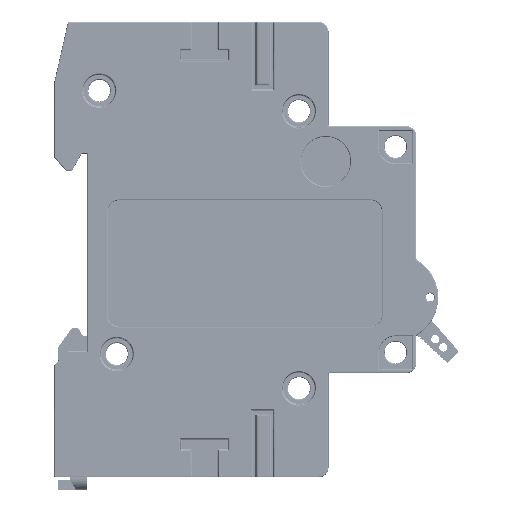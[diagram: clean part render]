
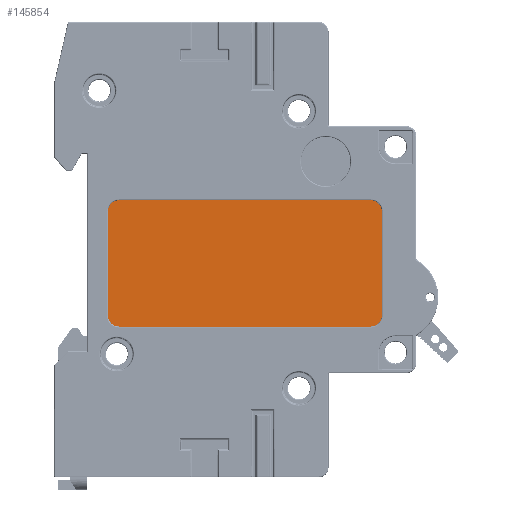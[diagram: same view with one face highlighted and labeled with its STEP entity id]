
A CAD part, front view. The second image highlights one B-rep face of the part: STEP entity #145854.
In plain terms, the highlighted planar face has unit normal (0, -1, 0).
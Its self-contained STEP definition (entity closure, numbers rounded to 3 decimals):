
#402 = CARTESIAN_POINT ( 'NONE',  ( 59.7, 0., 48.3 ) ) ;
#1172 = DIRECTION ( 'NONE',  ( 0., -1., 0. ) ) ;
#5265 = DIRECTION ( 'NONE',  ( 0., -1., 0. ) ) ;
#6903 = EDGE_LOOP ( 'NONE', ( #179249, #156064, #81278, #47494, #191475, #107065, #171596, #176689 ) ) ;
#7095 = CARTESIAN_POINT ( 'NONE',  ( 11.8, 0., 27.3 ) ) ;
#15238 = VERTEX_POINT ( 'NONE', #175763 ) ;
#21406 = DIRECTION ( 'NONE',  ( 0., -1., 0. ) ) ;
#25606 = VECTOR ( 'NONE', #170828, 1000. ) ;
#28996 = FACE_OUTER_BOUND ( 'NONE', #6903, .T. ) ;
#29867 = LINE ( 'NONE', #152408, #106408 ) ;
#33223 = CARTESIAN_POINT ( 'NONE',  ( 57.7, 0., 27.3 ) ) ;
#34711 = DIRECTION ( 'NONE',  ( 0., 0., -1. ) ) ;
#36138 = CARTESIAN_POINT ( 'NONE',  ( 57.7, 0., 48.3 ) ) ;
#36886 = EDGE_CURVE ( 'NONE', #155842, #72205, #86396, .T. ) ;
#38699 = CIRCLE ( 'NONE', #49735, 2. ) ;
#38716 = DIRECTION ( 'NONE',  ( 0., 0., -1. ) ) ;
#40457 = VECTOR ( 'NONE', #116579, 1000. ) ;
#44560 = CARTESIAN_POINT ( 'NONE',  ( 9.8, 0., 48.3 ) ) ;
#47494 = ORIENTED_EDGE ( 'NONE', *, *, #209052, .T. ) ;
#49226 = EDGE_CURVE ( 'NONE', #217583, #128631, #29867, .T. ) ;
#49735 = AXIS2_PLACEMENT_3D ( 'NONE', #111485, #21406, #38716 ) ;
#58026 = CARTESIAN_POINT ( 'NONE',  ( 57.7, 0., 50.3 ) ) ;
#61826 = DIRECTION ( 'NONE',  ( 0., 0., 1. ) ) ;
#64560 = DIRECTION ( 'NONE',  ( 0., 0., -1. ) ) ;
#66054 = CIRCLE ( 'NONE', #217394, 2. ) ;
#67897 = CARTESIAN_POINT ( 'NONE',  ( 57.7, 0., 50.3 ) ) ;
#72205 = VERTEX_POINT ( 'NONE', #176520 ) ;
#74629 = CARTESIAN_POINT ( 'NONE',  ( 57.7, 0., 29.3 ) ) ;
#81122 = VERTEX_POINT ( 'NONE', #156998 ) ;
#81278 = ORIENTED_EDGE ( 'NONE', *, *, #94059, .T. ) ;
#85867 = DIRECTION ( 'NONE',  ( 0., -1., 0. ) ) ;
#86396 = LINE ( 'NONE', #33223, #25606 ) ;
#88011 = EDGE_CURVE ( 'NONE', #72205, #15238, #66054, .T. ) ;
#89444 = CARTESIAN_POINT ( 'NONE',  ( 9.8, 0., 29.3 ) ) ;
#94059 = EDGE_CURVE ( 'NONE', #214193, #227356, #145089, .T. ) ;
#98134 = LINE ( 'NONE', #136191, #40457 ) ;
#99512 = PLANE ( 'NONE',  #149389 ) ;
#100802 = EDGE_CURVE ( 'NONE', #128631, #155842, #193990, .T. ) ;
#101897 = EDGE_CURVE ( 'NONE', #81122, #217583, #38699, .T. ) ;
#105515 = DIRECTION ( 'NONE',  ( 0., 0., -1. ) ) ;
#106408 = VECTOR ( 'NONE', #64560, 1000. ) ;
#107065 = ORIENTED_EDGE ( 'NONE', *, *, #49226, .T. ) ;
#111485 = CARTESIAN_POINT ( 'NONE',  ( 11.8, 0., 48.3 ) ) ;
#116579 = DIRECTION ( 'NONE',  ( 0., 0., 1. ) ) ;
#119943 = DIRECTION ( 'NONE',  ( -1., 0., 0. ) ) ;
#122559 = CARTESIAN_POINT ( 'NONE',  ( 11.8, 0., 29.3 ) ) ;
#124806 = VECTOR ( 'NONE', #119943, 1000. ) ;
#128631 = VERTEX_POINT ( 'NONE', #89444 ) ;
#136191 = CARTESIAN_POINT ( 'NONE',  ( 59.7, 0., 48.3 ) ) ;
#138430 = LINE ( 'NONE', #67897, #124806 ) ;
#145089 = CIRCLE ( 'NONE', #200517, 2. ) ;
#145854 = ADVANCED_FACE ( 'NONE', ( #28996 ), #99512, .T. ) ;
#149389 = AXIS2_PLACEMENT_3D ( 'NONE', #152654, #206948, #223143 ) ;
#152408 = CARTESIAN_POINT ( 'NONE',  ( 9.8, 0., 48.3 ) ) ;
#152654 = CARTESIAN_POINT ( 'NONE',  ( 11.8, 0., 29.3 ) ) ;
#155842 = VERTEX_POINT ( 'NONE', #7095 ) ;
#156064 = ORIENTED_EDGE ( 'NONE', *, *, #199263, .T. ) ;
#156998 = CARTESIAN_POINT ( 'NONE',  ( 11.8, 0., 50.3 ) ) ;
#170828 = DIRECTION ( 'NONE',  ( 1., 0., 0. ) ) ;
#171596 = ORIENTED_EDGE ( 'NONE', *, *, #100802, .T. ) ;
#175763 = CARTESIAN_POINT ( 'NONE',  ( 59.7, 0., 29.3 ) ) ;
#176520 = CARTESIAN_POINT ( 'NONE',  ( 57.7, 0., 27.3 ) ) ;
#176689 = ORIENTED_EDGE ( 'NONE', *, *, #36886, .T. ) ;
#179249 = ORIENTED_EDGE ( 'NONE', *, *, #88011, .T. ) ;
#182975 = AXIS2_PLACEMENT_3D ( 'NONE', #122559, #1172, #34711 ) ;
#191475 = ORIENTED_EDGE ( 'NONE', *, *, #101897, .T. ) ;
#193990 = CIRCLE ( 'NONE', #182975, 2. ) ;
#199263 = EDGE_CURVE ( 'NONE', #15238, #214193, #98134, .T. ) ;
#200517 = AXIS2_PLACEMENT_3D ( 'NONE', #36138, #85867, #105515 ) ;
#206948 = DIRECTION ( 'NONE',  ( 0., -1., 0. ) ) ;
#209052 = EDGE_CURVE ( 'NONE', #227356, #81122, #138430, .T. ) ;
#214193 = VERTEX_POINT ( 'NONE', #402 ) ;
#217394 = AXIS2_PLACEMENT_3D ( 'NONE', #74629, #5265, #61826 ) ;
#217583 = VERTEX_POINT ( 'NONE', #44560 ) ;
#223143 = DIRECTION ( 'NONE',  ( -1., 0., 0. ) ) ;
#227356 = VERTEX_POINT ( 'NONE', #58026 ) ;
